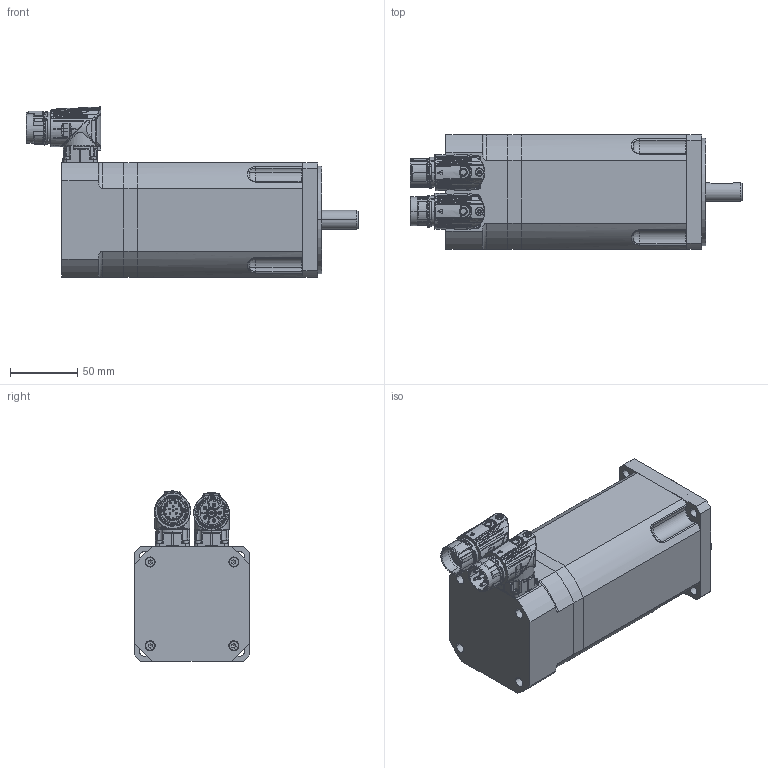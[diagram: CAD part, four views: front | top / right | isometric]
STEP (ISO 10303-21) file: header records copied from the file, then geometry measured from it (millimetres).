
FILE_DESCRIPTION(('CATIA V5 STEP Exchange'),'2;1');
FILE_NAME('C:\Documents and Settings\max\Documenti\sangallimotori\3d step\tg3\motore_DSM5_33.stp','2010-12-12T17:18:45+00:00',('none'),('none'),'CATIA Version 5 Release 10 (IN-8)','CATIA V5 STEP AP203',' none');
FILE_SCHEMA(('CONFIG_CONTROL_DESIGN'));
Assembly tree (27 placements, depth 0):
Bounding box: 246.71 x 85 x 126.43 mm (x, y, z)
Volume: 1270814 mm3; surface area: 145206.9 mm2
Topology: 23 solids, 28 shells, 4107 faces, 13917 edges, 9832 vertices
Faces by surface type: cylinder 1492, bspline 1326, plane 591, torus 348, cone 233, sphere 109, revolution 8
Entity records: 254899 total; most frequent: CARTESIAN_POINT 165131, ORIENTED_EDGE 25414, EDGE_CURVE 12764, VERTEX_POINT 9182, DIRECTION 8725, B_SPLINE_CURVE_WITH_KNOTS 7926, AXIS2_PLACEMENT_3D 4353, EDGE_LOOP 3819
